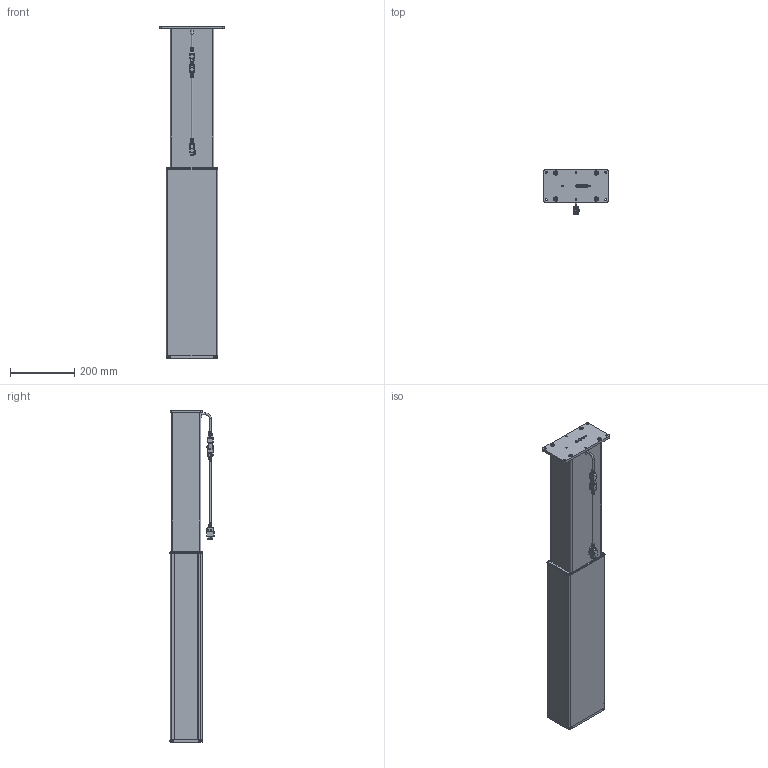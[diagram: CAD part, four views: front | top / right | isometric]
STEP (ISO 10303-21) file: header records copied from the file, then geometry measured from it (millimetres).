
FILE_DESCRIPTION(/* description */ ('Unknown'),/* implementation_level */ '2;1');
FILE_NAME(/* name */ '911.00014_01-ausgefahren',/* time_stamp */ '2026-03-27T08:13:27+01:00',/* author */ ('Unknown'),/* organization */ ('Unknown'),/* preprocessor_version */ 'ST-DEVELOPER v20',/* originating_system */ 'Solid Edge',/* authorisation */ 'Unknown');
FILE_SCHEMA (('CONFIG_CONTROL_DESIGN','AUTOMOTIVE_DESIGN {1 0 10303 214 3 1 1}'));
Products named in the file (38): 911.00014; 126.00191; 119.00587; 119.00576; 126.00193; 124.00201; 3120_01-01_3D_0; 3120_02-02_3D_0; 3130_48-04_3D_0; HK-1210_0; DIN7380-M5X8-BR-M_0; 3121_17-01_3D_0; 3120_13-01_3D_0; WN1452-K40X14_0; 61801-ZZ_0; 3121_76-05_3D_0; 6001-ZZ_0; 115.00200; 125.00260; 125.00261; 142.00012; 110.00104; 125.00352; 142.00242; 125.00259; 142.00243; 127.00455; 125.00363; 142.00331; 142.00303; 142.00342; 142.00241; 142.00154; 142.00039; 128.00078; Kabel Motor Sx; 124.00151; 119.00575
Assembly tree (52 placements, depth 3):
  911.00014
    126.00191
    119.00587  x2
    119.00576  x2
    126.00193
    124.00201
      3120_01-01_3D_0
      3120_02-02_3D_0
      3130_48-04_3D_0
      HK-1210_0
      DIN7380-M5X8-BR-M_0  x2
      3121_17-01_3D_0
      3120_13-01_3D_0
      WN1452-K40X14_0  x4
      61801-ZZ_0
      3121_76-05_3D_0
      6001-ZZ_0
    115.00200
      125.00260
      125.00261
      142.00012
    110.00104
      125.00352
      142.00242  x2
      125.00259
      142.00243
    127.00455
    125.00363
    142.00331
    142.00303  x4
    142.00342
    142.00241  x2
    142.00154  x4
    142.00039  x2
    128.00078
    Kabel Motor Sx
    124.00151
    119.00575
Bounding box: 200 x 137.17 x 1030 mm (x, y, z)
Volume: 3274858.3 mm3; surface area: 1734077.5 mm2
Topology: 71 solids, 72 shells, 3430 faces, 8579 edges, 5418 vertices
Faces by surface type: plane 1440, cylinder 964, torus 473, cone 287, bspline 182, sphere 84
Full cylindrical faces by diameter (mm): 1.5 x6, 1.82 x6, 2 x4, 2.7 x6, 2.8 x1, 3.464 x2, 3.5 x2, 3.6 x4, 3.621 x4, 3.65 x2, 3.94 x1, 4 x75, 4.1 x5, 4.134 x7, 4.2 x2, 4.567 x2, 4.917 x4, 5 x20, 5.1 x2, 5.5 x2, 6 x11, 6.02 x1, 6.2 x4, 6.4 x1, 6.5 x4, 6.6 x4, 6.647 x5, 6.8 x2, 6.9 x1, 7 x2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
Entity records: 102335 total; most frequent: CARTESIAN_POINT 24436, DIRECTION 13882, ORIENTED_EDGE 13338, EDGE_CURVE 6669, AXIS2_PLACEMENT_3D 5275, VERTEX_POINT 4468, FACE_BOUND 3547, EDGE_LOOP 3520
